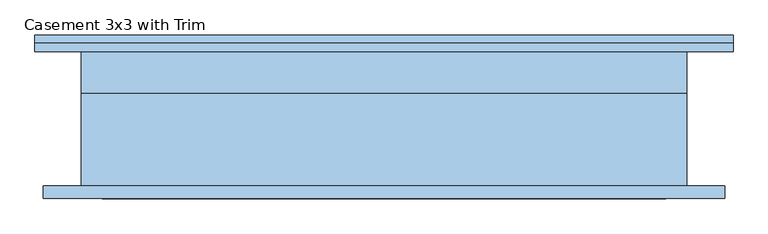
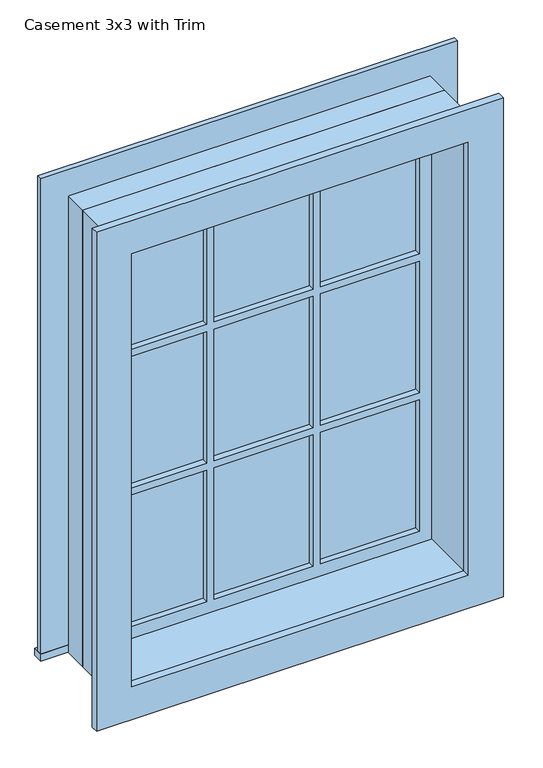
"""IFC4 building model written with IfcOpenShell, lengths in millimetres: window geometry."""

from ifc_helpers import new_model, si_unit, frame, origin, place, context, project, spatial, polyline, outline, extrude, source, transform, mapped, element, save


def casement_3x3_with_trim_29c06734(model_context):
    return source(origin(), model_context, "Body", "SweptSolid", [
        extrude(outline(polyline([(-527.05, 127.0), (527.05, 127.0), (527.05, 101.6), (-527.05, 101.6), (-527.05, 127.0)])), frame((0.0, 0.0, 914.4), z_axis=(0.0, 0.0, 1.0), x_axis=(1.0, 0.0, 0.0)), (0.0, 0.0, 1.0), 19.05),
        extrude(outline(polyline([(2114.55, -438.15), (2114.55, 438.15), (933.45, 438.15), (933.45, 527.05), (2203.45, 527.05), (2203.45, -527.05), (933.45, -527.05), (933.45, -438.15), (2114.55, -438.15)])), frame((0.0, 101.6, 0.0), z_axis=(0.0, 1.0, 0.0), x_axis=(0.0, 0.0, 1.0)), (0.0, 0.0, 1.0), 12.7),
        extrude(outline(polyline([(143.9333333, 66.675), (393.7, 66.675), (393.7, 53.975), (143.9333333, 53.975), (143.9333333, 66.675)])), frame((0.0, 0.0, 1718.7333333), z_axis=(0.0, 0.0, 1.0), x_axis=(1.0, 0.0, 0.0)), (0.0, 0.0, 1.0), 351.3666667),
        extrude(outline(polyline([(-124.8833333, 66.675), (124.8833333, 66.675), (124.8833333, 53.975), (-124.8833333, 53.975), (-124.8833333, 66.675)])), frame((0.0, 0.0, 1718.7333333), z_axis=(0.0, 0.0, 1.0), x_axis=(1.0, 0.0, 0.0)), (0.0, 0.0, 1.0), 351.3666667),
        extrude(outline(polyline([(-393.7, 66.675), (-143.9333333, 66.675), (-143.9333333, 53.975), (-393.7, 53.975), (-393.7, 66.675)])), frame((0.0, 0.0, 1718.7333333), z_axis=(0.0, 0.0, 1.0), x_axis=(1.0, 0.0, 0.0)), (0.0, 0.0, 1.0), 351.3666667),
        extrude(outline(polyline([(-393.7, 66.675), (-143.9333333, 66.675), (-143.9333333, 53.975), (-393.7, 53.975), (-393.7, 66.675)])), frame((0.0, 0.0, 1348.3166667), z_axis=(0.0, 0.0, 1.0), x_axis=(1.0, 0.0, 0.0)), (0.0, 0.0, 1.0), 351.3666667),
        extrude(outline(polyline([(-124.8833333, 66.675), (124.8833333, 66.675), (124.8833333, 53.975), (-124.8833333, 53.975), (-124.8833333, 66.675)])), frame((0.0, 0.0, 1348.3166667), z_axis=(0.0, 0.0, 1.0), x_axis=(1.0, 0.0, 0.0)), (0.0, 0.0, 1.0), 351.3666667),
        extrude(outline(polyline([(143.9333333, 66.675), (393.7, 66.675), (393.7, 53.975), (143.9333333, 53.975), (143.9333333, 66.675)])), frame((0.0, 0.0, 1348.3166667), z_axis=(0.0, 0.0, 1.0), x_axis=(1.0, 0.0, 0.0)), (0.0, 0.0, 1.0), 351.3666667),
        extrude(outline(polyline([(143.9333333, 66.675), (393.7, 66.675), (393.7, 53.975), (143.9333333, 53.975), (143.9333333, 66.675)])), frame((0.0, 0.0, 977.9), z_axis=(0.0, 0.0, 1.0), x_axis=(1.0, 0.0, 0.0)), (0.0, 0.0, 1.0), 351.3666667),
        extrude(outline(polyline([(-124.8833333, 66.675), (124.8833333, 66.675), (124.8833333, 53.975), (-124.8833333, 53.975), (-124.8833333, 66.675)])), frame((0.0, 0.0, 977.9), z_axis=(0.0, 0.0, 1.0), x_axis=(1.0, 0.0, 0.0)), (0.0, 0.0, 1.0), 351.3666667),
        extrude(outline(polyline([(-393.7, 66.675), (-143.9333333, 66.675), (-143.9333333, 53.975), (-393.7, 53.975), (-393.7, 66.675)])), frame((0.0, 0.0, 977.9), z_axis=(0.0, 0.0, 1.0), x_axis=(1.0, 0.0, 0.0)), (0.0, 0.0, 1.0), 351.3666667),
        extrude(outline(polyline([(2190.75, 514.35), (2190.75, -514.35), (857.25, -514.35), (857.25, 514.35), (2190.75, 514.35)]), holes=[polyline([(2101.85, 425.45), (946.15, 425.45), (946.15, -425.45), (2101.85, -425.45), (2101.85, 425.45)])]), frame((0.0, -120.65, 0.0), z_axis=(0.0, 1.0, 0.0), x_axis=(0.0, 0.0, 1.0)), (0.0, 0.0, 1.0), 19.05),
        extrude(outline(polyline([(2114.55, -438.15), (933.45, -438.15), (933.45, 438.15), (2114.55, 438.15), (2114.55, -438.15)]), holes=[polyline([(2070.1, -143.9333333), (1718.7333333, -143.9333333), (1718.7333333, -393.7), (2070.1, -393.7), (2070.1, -143.9333333)]), polyline([(1699.6833333, -143.9333333), (1348.3166667, -143.9333333), (1348.3166667, -393.7), (1699.6833333, -393.7), (1699.6833333, -143.9333333)]), polyline([(1329.2666667, -143.9333333), (977.9, -143.9333333), (977.9, -393.7), (1329.2666667, -393.7), (1329.2666667, -143.9333333)]), polyline([(2070.1, 124.8833333), (1718.7333333, 124.8833333), (1718.7333333, -124.8833333), (2070.1, -124.8833333), (2070.1, 124.8833333)]), polyline([(1699.6833333, 124.8833333), (1348.3166667, 124.8833333), (1348.3166667, -124.8833333), (1699.6833333, -124.8833333), (1699.6833333, 124.8833333)]), polyline([(1329.2666667, 124.8833333), (977.9, 124.8833333), (977.9, -124.8833333), (1329.2666667, -124.8833333), (1329.2666667, 124.8833333)]), polyline([(2070.1, 393.7), (1718.7333333, 393.7), (1718.7333333, 143.9333333), (2070.1, 143.9333333), (2070.1, 393.7)]), polyline([(1699.6833333, 393.7), (1348.3166667, 393.7), (1348.3166667, 143.9333333), (1699.6833333, 143.9333333), (1699.6833333, 393.7)]), polyline([(1329.2666667, 393.7), (977.9, 393.7), (977.9, 143.9333333), (1329.2666667, 143.9333333), (1329.2666667, 393.7)])]), frame((0.0, 38.1, 0.0), z_axis=(0.0, 1.0, 0.0), x_axis=(0.0, 0.0, 1.0)), (0.0, 0.0, 1.0), 44.45),
        extrude(outline(polyline([(2133.6, -457.2), (914.4, -457.2), (914.4, 457.2), (2133.6, 457.2), (2133.6, -457.2)]), holes=[polyline([(2101.85, -425.45), (2101.85, 425.45), (946.15, 425.45), (946.15, -425.45), (2101.85, -425.45)])]), frame((0.0, -101.6, 0.0), z_axis=(0.0, 1.0, 0.0), x_axis=(0.0, 0.0, 1.0)), (0.0, 0.0, 1.0), 139.7),
        extrude(outline(polyline([(2133.6, 457.2), (2133.6, -457.2), (914.4, -457.2), (914.4, 457.2), (2133.6, 457.2)]), holes=[polyline([(2114.55, 438.15), (933.45, 438.15), (933.45, -438.15), (2114.55, -438.15), (2114.55, 438.15)])]), frame((0.0, 38.1, 0.0), z_axis=(0.0, 1.0, 0.0), x_axis=(0.0, 0.0, 1.0)), (0.0, 0.0, 1.0), 63.5),
    ])


if __name__ == "__main__":
    model = new_model("IFC4")
    model_context = context("Model", 3, world=origin())
    ifc_project = project(units=[si_unit("LENGTHUNIT", "METRE", prefix="MILLI")], contexts=[model_context])
    site = spatial("IfcSite", under=ifc_project)
    building = spatial("IfcBuilding", under=site)
    placement = place(None, origin())
    casement_3x3_with_trim_shape = casement_3x3_with_trim_29c06734(model_context)
    element("IfcWindow", 1, ObjectType="Casement 3x3 with Trim : 36\"w x 48\"h", at=placement, inside=building, context=model_context, shape_type="MappedRepresentation", body=[
        mapped(casement_3x3_with_trim_shape, transform((0.0, 0.0, 0.0), x_axis=(1.0, 0.0, 0.0), y_axis=(0.0, 1.0, 0.0), z_axis=(0.0, 0.0, 1.0))),
    ])
    save(model, "model.ifc")
